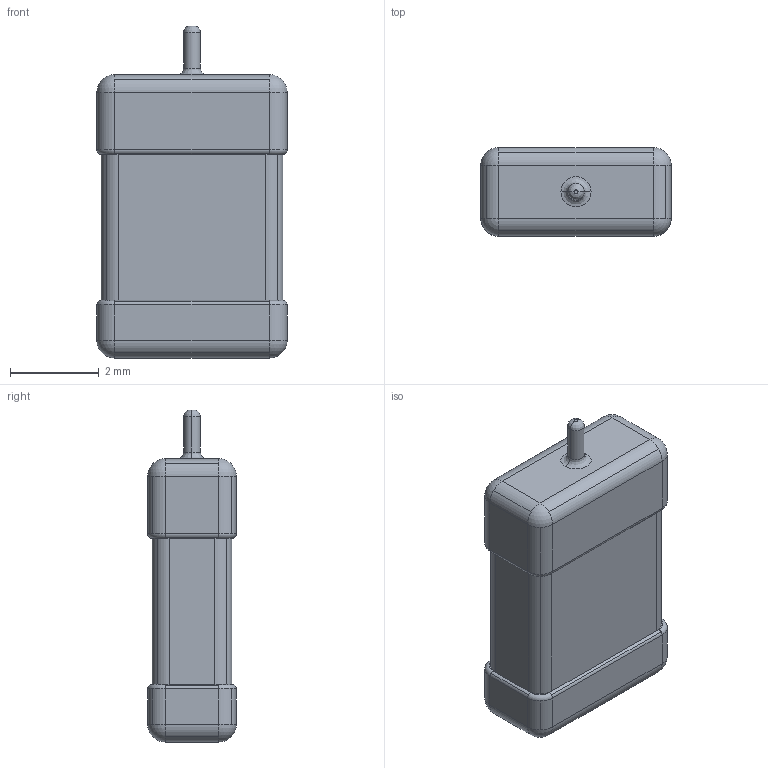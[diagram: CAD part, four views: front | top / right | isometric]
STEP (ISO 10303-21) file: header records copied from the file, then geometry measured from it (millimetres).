
FILE_DESCRIPTION((''),'2;1');
FILE_NAME('591D_D-case_20H.stp','2019-05-02T10:59:16',(''),(''),'AutoCAD STEP 2000i','AutoCAD 2000i',', , ');
FILE_SCHEMA(('CONFIG_CONTROL_DESIGN'));
Length unit declared in the file: millimetre
Products named in the file (2): 591D_D-CASE_20H; MODEL
Assembly tree (1 placements, depth 2):
  591D_D-CASE_20H
    MODEL
Bounding box: 4.3 x 2 x 7.5 mm (x, y, z)
Volume: 49.5 mm3; surface area: 89 mm2
Topology: 1 solids, 1 shells, 101 faces, 242 edges, 136 vertices
Faces by surface type: cylinder 58, plane 23, torus 8, sphere 8, bspline 4
Entity records: 3129 total; most frequent: CARTESIAN_POINT 649, DIRECTION 564, ORIENTED_EDGE 468, EDGE_CURVE 234, AXIS2_PLACEMENT_3D 231, VERTEX_POINT 136, CIRCLE 132, VECTOR 102
